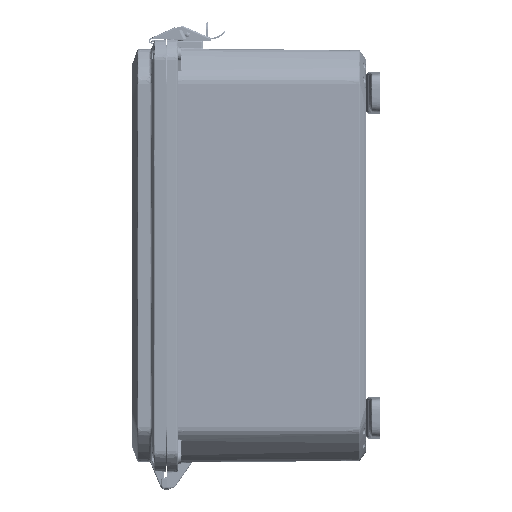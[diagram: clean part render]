
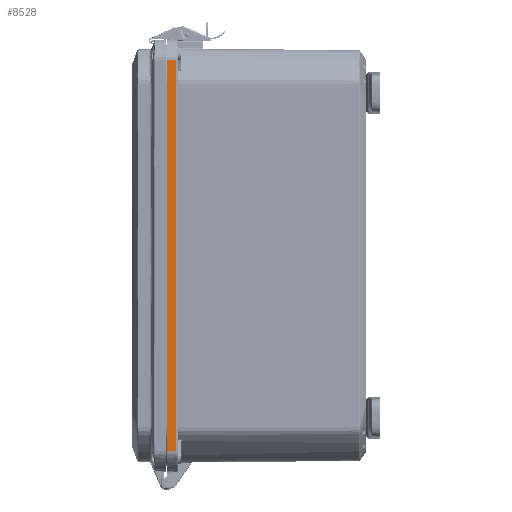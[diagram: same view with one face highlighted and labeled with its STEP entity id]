
A CAD part, left-side view. The second image highlights one B-rep face of the part: STEP entity #8528.
In plain terms, the highlighted planar face has unit normal (-0.999, -0.035, 0).
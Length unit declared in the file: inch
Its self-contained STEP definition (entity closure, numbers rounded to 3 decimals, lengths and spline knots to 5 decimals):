
#8085 = EDGE_CURVE ( 'NONE', #315827, #312661, #205117, .T. ) ;
#8528 = ADVANCED_FACE ( 'NONE', ( #50145 ), #182853, .T. ) ;
#11715 = ORIENTED_EDGE ( 'NONE', *, *, #48609, .F. ) ;
#27568 = LINE ( 'NONE', #183866, #141165 ) ;
#28433 = CARTESIAN_POINT ( 'NONE',  ( -8.62, 0., -6.89046 ) ) ;
#37294 = EDGE_CURVE ( 'NONE', #232448, #312661, #27568, .T. ) ;
#42456 = LINE ( 'NONE', #144993, #122108 ) ;
#48609 = EDGE_CURVE ( 'NONE', #97496, #315827, #42456, .T. ) ;
#50145 = FACE_OUTER_BOUND ( 'NONE', #222676, .T. ) ;
#50385 = DIRECTION ( 'NONE',  ( 0.035, -0.999, 0. ) ) ;
#51796 = DIRECTION ( 'NONE',  ( -0.999, -0.035, 0. ) ) ;
#77747 = CARTESIAN_POINT ( 'NONE',  ( -8.62, 0., 6.89046 ) ) ;
#80306 = VECTOR ( 'NONE', #258864, 39.37008 ) ;
#97496 = VERTEX_POINT ( 'NONE', #134554 ) ;
#118006 = AXIS2_PLACEMENT_3D ( 'NONE', #282030, #51796, #154332 ) ;
#122108 = VECTOR ( 'NONE', #247499, 39.37008 ) ;
#134554 = CARTESIAN_POINT ( 'NONE',  ( -8.62, 0., -6.89046 ) ) ;
#141165 = VECTOR ( 'NONE', #155365, 39.37008 ) ;
#144993 = CARTESIAN_POINT ( 'NONE',  ( -8.62, 0., 7.3 ) ) ;
#153957 = ORIENTED_EDGE ( 'NONE', *, *, #165715, .T. ) ;
#154332 = DIRECTION ( 'NONE',  ( 0.035, -0.999, 0. ) ) ;
#155365 = DIRECTION ( 'NONE',  ( 0., 0., 1. ) ) ;
#165715 = EDGE_CURVE ( 'NONE', #97496, #232448, #283926, .T. ) ;
#182853 = PLANE ( 'NONE',  #118006 ) ;
#183866 = CARTESIAN_POINT ( 'NONE',  ( -8.60772, -0.35174, 6.89046 ) ) ;
#187228 = CARTESIAN_POINT ( 'NONE',  ( -8.60772, -0.35174, 6.89046 ) ) ;
#205117 = LINE ( 'NONE', #310960, #80306 ) ;
#219082 = CARTESIAN_POINT ( 'NONE',  ( -8.60772, -0.35174, -6.89046 ) ) ;
#222676 = EDGE_LOOP ( 'NONE', ( #261956, #323913, #11715, #153957 ) ) ;
#223239 = VECTOR ( 'NONE', #50385, 39.37008 ) ;
#232448 = VERTEX_POINT ( 'NONE', #219082 ) ;
#247499 = DIRECTION ( 'NONE',  ( 0., 0., 1. ) ) ;
#258864 = DIRECTION ( 'NONE',  ( 0.035, -0.999, 0. ) ) ;
#261956 = ORIENTED_EDGE ( 'NONE', *, *, #37294, .T. ) ;
#282030 = CARTESIAN_POINT ( 'NONE',  ( -8.62, 0., 7.3 ) ) ;
#283926 = LINE ( 'NONE', #28433, #223239 ) ;
#310960 = CARTESIAN_POINT ( 'NONE',  ( -8.62, 0., 6.89046 ) ) ;
#312661 = VERTEX_POINT ( 'NONE', #187228 ) ;
#315827 = VERTEX_POINT ( 'NONE', #77747 ) ;
#323913 = ORIENTED_EDGE ( 'NONE', *, *, #8085, .F. ) ;
